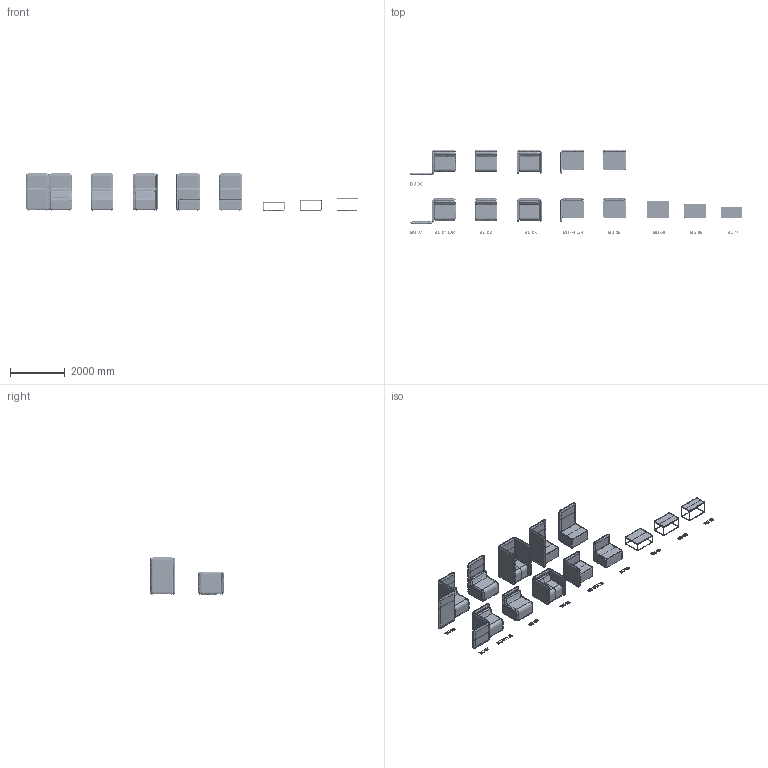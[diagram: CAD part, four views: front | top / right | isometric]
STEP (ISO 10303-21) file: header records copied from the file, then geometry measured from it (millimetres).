
FILE_DESCRIPTION(/* description */ (''),/* implementation_level */ '2;1');
FILE_NAME(/* name */ 'BUNKER BU 01 - BU 10',/* time_stamp */ '2014-12-11T15:25:54+01:00',/* author */ (''),/* organization */ (''),/* preprocessor_version */ 'ST-DEVELOPER v10',/* originating_system */ '',/* authorisation */ '');
FILE_SCHEMA (('CONFIG_CONTROL_DESIGN'));
Products named in the file (1): 1
Bounding box: 12160.02 x 3079.09 x 1359.43 mm (x, y, z)
Volume: 2763192905.7 mm3; surface area: 80966454.5 mm2
Topology: 152 solids, 214 shells, 1719 faces, 3955 edges, 2167 vertices
Faces by surface type: bspline 1522, plane 197
Entity records: 117647 total; most frequent: CARTESIAN_POINT 98302, ORIENTED_EDGE 6701, EDGE_CURVE 3547, VERTEX_POINT 2100, EDGE_LOOP 1756, ADVANCED_FACE 1719, FACE_OUTER_BOUND 1719, B_SPLINE_CURVE_WITH_KNOTS 575
